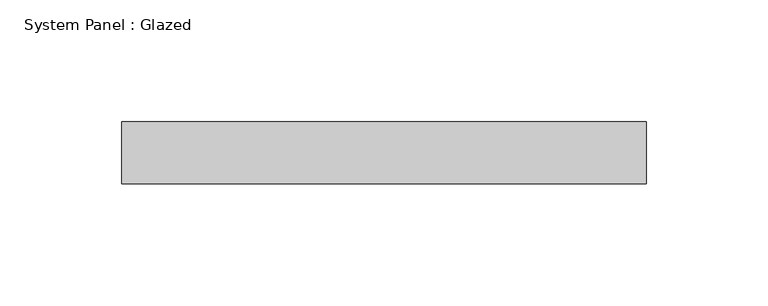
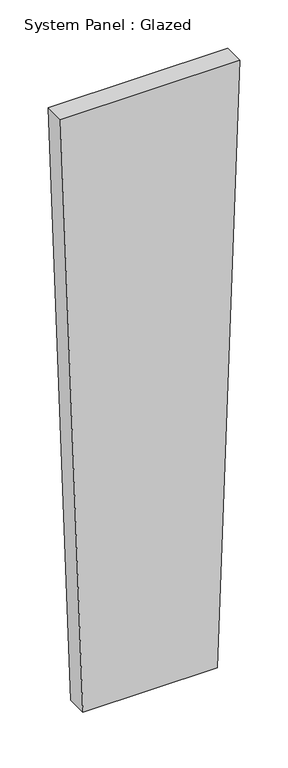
"""IFC4 building model written with IfcOpenShell, lengths in millimetres: plate geometry, System Panel : Glazed."""

import ifcopenshell
import ifcopenshell.guid

model = None  # the IFC model being written
_history = None  # IfcOwnerHistory: only IFC2X3 demands one
_inside = {}  # id of a spatial element -> (the spatial element, [elements in it])
_under = {}  # id of a project, library or spatial element -> (it, [spatial elements below it])
_declared = {}  # id of a project -> (the project, [libraries it declares])
_typed = {}  # id of a type object -> (the type object, [elements of that type])
_made_of = {}  # id of a material, layer set ... -> (it, [elements and type objects made of it])


def new_model(schema):
    """Start an empty IFC model of exactly this schema.

    Asked for "IFC4X3", IfcOpenShell would pick the latest addendum, in which some entities
    have other attributes; the version numbers below select the first issue.
    IFC2X3 requires an IfcOwnerHistory on every rooted entity: one is made here for all.
    """
    global model, _history
    if schema == "IFC4X3":
        model = ifcopenshell.file(schema_version=(4, 3, 0, 0))
    else:
        model = ifcopenshell.file(schema=schema)
    _inside.clear()
    _under.clear()
    _declared.clear()
    _typed.clear()
    _made_of.clear()
    _history = None
    if model.schema == "IFC2X3":
        org = make("IfcOrganization", Name="unknown")
        user = make(
            "IfcPersonAndOrganization",
            ThePerson=make("IfcPerson", FamilyName="unknown"),
            TheOrganization=org,
        )
        app = make(
            "IfcApplication",
            ApplicationDeveloper=org,
            Version="unknown",
            ApplicationFullName="unknown",
            ApplicationIdentifier="unknown",
        )
        _history = make(
            "IfcOwnerHistory",
            OwningUser=user,
            OwningApplication=app,
            ChangeAction="ADDED",
            CreationDate=0,
        )
    return model


def make(cls, **values):
    """One entity of the class cls with the attributes given. An attribute that is None is left unset."""
    return model.create_entity(
        cls, **{name: value for name, value in values.items() if value is not None}
    )


def rooted(cls, **values):
    """An entity with a GlobalId (a new one), such as an element, a storey or a relation."""
    return make(cls, GlobalId=ifcopenshell.guid.new(), OwnerHistory=_history, **values)


def si_unit(unit_type, name, prefix=None):
    """IfcSIUnit, for example si_unit("LENGTHUNIT", "METRE", prefix="MILLI")."""
    return make("IfcSIUnit", UnitType=unit_type, Prefix=prefix, Name=name)


def assignment(units):
    """IfcUnitAssignment: the units of a project."""
    return None if units is None else make("IfcUnitAssignment", Units=units)


def point(xyz):
    """IfcCartesianPoint."""
    return None if xyz is None else make("IfcCartesianPoint", Coordinates=xyz)


def direction(xyz):
    """IfcDirection."""
    return None if xyz is None else make("IfcDirection", DirectionRatios=xyz)


def frame(location, z_axis=None, x_axis=None):
    """IfcAxis2Placement3D, a coordinate frame: its origin and axes. An axis left out is left unset."""
    return make(
        "IfcAxis2Placement3D",
        Location=point(location),
        Axis=direction(z_axis),
        RefDirection=direction(x_axis),
    )


def origin():
    """The frame at (0, 0, 0) with its axes left unset."""
    return frame((0.0, 0.0, 0.0))


def place(relative_to, where):
    """IfcLocalPlacement: puts the frame where relative to a parent placement (None: the world)."""
    return make(
        "IfcLocalPlacement", PlacementRelTo=relative_to, RelativePlacement=where
    )


def context(
    kind, dimensions, precision=None, world=None, true_north=None, identifier=None
):
    """IfcGeometricRepresentationContext, for example the 3D "Model" context."""
    return make(
        "IfcGeometricRepresentationContext",
        ContextIdentifier=identifier,
        ContextType=kind,
        CoordinateSpaceDimension=dimensions,
        Precision=precision,
        WorldCoordinateSystem=world,
        TrueNorth=true_north,
    )


def project(units=None, contexts=None):
    """IfcProject with its units and contexts."""
    return rooted(
        "IfcProject",
        Name="project",
        RepresentationContexts=contexts,
        UnitsInContext=assignment(units),
    )


def spatial(cls, under=None, at=None, **own):
    """A site, building, storey or space (cls), placed at a placement, below another one or the project."""
    s = rooted(cls, ObjectPlacement=at, **own)
    if under is not None:
        _under.setdefault(under.id(), (under, []))[1].append(s)
    return s


def polyline(points):
    """IfcPolyline through the points."""
    return make("IfcPolyline", Points=[point(p) for p in points])


def outline(outer, holes=None, kind="AREA"):
    """IfcArbitraryClosedProfileDef: a profile drawn as a closed curve; with holes, ...WithVoids."""
    if holes is None:
        return make("IfcArbitraryClosedProfileDef", ProfileType=kind, OuterCurve=outer)
    return make(
        "IfcArbitraryProfileDefWithVoids",
        ProfileType=kind,
        OuterCurve=outer,
        InnerCurves=holes,
    )


def extrude(swept, where, along, depth):
    """IfcExtrudedAreaSolid: the profile swept, set in the frame where, extruded along a direction by depth."""
    return make(
        "IfcExtrudedAreaSolid",
        SweptArea=swept,
        Position=where,
        ExtrudedDirection=direction(along),
        Depth=depth,
    )


def shape(context_of_items, identifier, shape_type, items):
    """IfcShapeRepresentation: the items that make up one representation, for example the "Body"."""
    return make(
        "IfcShapeRepresentation",
        ContextOfItems=context_of_items,
        RepresentationIdentifier=identifier,
        RepresentationType=shape_type,
        Items=items,
    )


def source(mapping_origin, context_of_items, identifier, shape_type, items):
    """IfcRepresentationMap: a shape defined once, which mapped items show again and again."""
    return make(
        "IfcRepresentationMap",
        MappingOrigin=mapping_origin,
        MappedRepresentation=shape(context_of_items, identifier, shape_type, items),
    )


def transform(
    local_origin,
    x_axis=None,
    y_axis=None,
    z_axis=None,
    scale=None,
    scale2=None,
    scale3=None,
    uniform=True,
):
    """IfcCartesianTransformationOperator3D, or its non-uniform kind. x_axis, y_axis, z_axis: its Axis1, 2, 3."""
    if uniform:
        return make(
            "IfcCartesianTransformationOperator3D",
            Axis1=direction(x_axis),
            Axis2=direction(y_axis),
            LocalOrigin=point(local_origin),
            Scale=scale,
            Axis3=direction(z_axis),
        )
    return make(
        "IfcCartesianTransformationOperator3DnonUniform",
        Axis1=direction(x_axis),
        Axis2=direction(y_axis),
        LocalOrigin=point(local_origin),
        Scale=scale,
        Axis3=direction(z_axis),
        Scale2=scale2,
        Scale3=scale3,
    )


def mapped(mapping_source, mapping_target):
    """IfcMappedItem: shows the shape of a source again, moved by a transform."""
    return make(
        "IfcMappedItem", MappingSource=mapping_source, MappingTarget=mapping_target
    )


def made_of(thing, what):
    """Note that an element or type object is made of a material, layer set ...; save() writes the relation."""
    if what is not None:
        _made_of.setdefault(what.id(), (what, []))[1].append(thing)
    return thing


def element(
    cls,
    number,
    at=None,
    inside=None,
    cuts=None,
    type_object=None,
    material=None,
    context=None,
    identifier="Body",
    shape_type=None,
    held_by="IfcProductDefinitionShape",
    body=None,
    shapes=None,
    **own,
):
    """One element of the class cls, such as IfcWall. Its Tag is "e" and its number.

    at: its placement. inside: the storey or other place that contains it. cuts: it is an
    opening in that element (IfcRelVoidsElement). A single representation is given by context,
    identifier, shape_type and body (its items); several are given by shapes. held_by: the class
    of the entity that holds the representations. save() writes the other relations.
    """
    e = rooted(cls, Tag="e%d" % number, ObjectPlacement=at, **own)
    if body is not None:
        shapes = [shape(context, identifier, shape_type, body)]
    if shapes is not None:
        e.Representation = make(held_by, Representations=shapes)
    if inside is not None:
        _inside.setdefault(inside.id(), (inside, []))[1].append(e)
    if cuts is not None:
        rooted(
            "IfcRelVoidsElement", RelatingBuildingElement=cuts, RelatedOpeningElement=e
        )
    if type_object is not None:
        _typed.setdefault(type_object.id(), (type_object, []))[1].append(e)
    return made_of(e, material)


def aggregate(whole, parts):
    """IfcRelAggregates: a whole, such as a stair, and the parts it consists of."""
    return rooted("IfcRelAggregates", RelatingObject=whole, RelatedObjects=parts)


def save(model, path):
    """Write the relations noted so far, then the file.

    IfcRelAggregates (storeys below a building ...), IfcRelContainedInSpatialStructure (elements
    in a storey), IfcRelDefinesByType, IfcRelAssociatesMaterial and IfcRelDeclares: one each for
    every whole, place, type object, material and project.
    """
    for whole, parts in _under.values():
        aggregate(whole, parts)
    for where, things in _inside.values():
        rooted(
            "IfcRelContainedInSpatialStructure",
            RelatedElements=things,
            RelatingStructure=where,
        )
    for kind, things in _typed.values():
        rooted("IfcRelDefinesByType", RelatedObjects=things, RelatingType=kind)
    for what, things in _made_of.values():
        rooted("IfcRelAssociatesMaterial", RelatedObjects=things, RelatingMaterial=what)
    for by, libraries in _declared.values():
        rooted("IfcRelDeclares", RelatingContext=by, RelatedDefinitions=libraries)
    model.write(path)


def system_panel_glazed_3d57d9e6(model_context):
    return source(origin(), model_context, "Body", "SweptSolid", [
        extrude(outline(polyline([(0.0, -80.8003303), (0.0, 80.8003303), (761.5238602, 107.7337738), (761.5238602, -107.7337738), (0.0, -80.8003303)])), frame((0.0, -44.45, 0.0), z_axis=(0.0, 1.0, 0.0), x_axis=(0.0, 0.0, 1.0)), (0.0, 0.0, 1.0), 25.4),
    ])


if __name__ == "__main__":
    model = new_model("IFC4")
    model_context = context("Model", 3, world=origin())
    ifc_project = project(units=[si_unit("LENGTHUNIT", "METRE", prefix="MILLI")], contexts=[model_context])
    site = spatial("IfcSite", under=ifc_project)
    building = spatial("IfcBuilding", under=site)
    placement = place(None, origin())
    system_panel_glazed_shape = system_panel_glazed_3d57d9e6(model_context)
    element("IfcPlate", 1, ObjectType="System Panel : Glazed", at=placement, inside=building, context=model_context, shape_type="MappedRepresentation", body=[
        mapped(system_panel_glazed_shape, transform((0.0, 0.0, 0.0), x_axis=(1.0, 0.0, 0.0), y_axis=(0.0, 1.0, 0.0), z_axis=(0.0, 0.0, 1.0))),
    ])
    save(model, "model.ifc")
